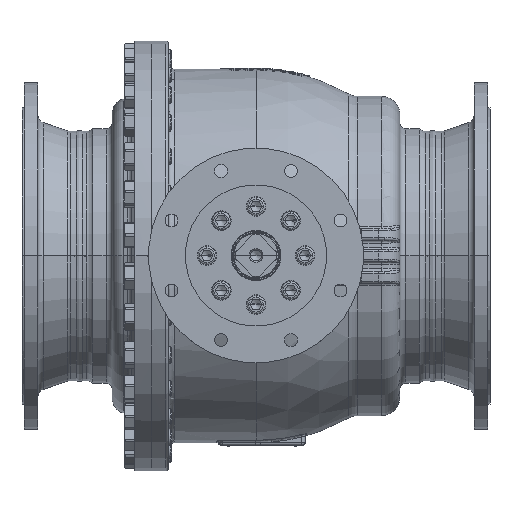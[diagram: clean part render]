
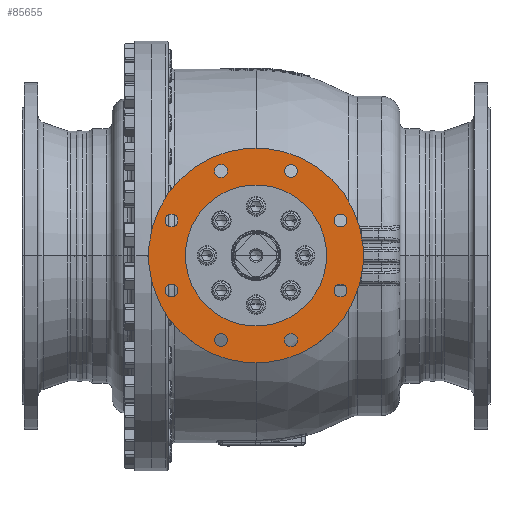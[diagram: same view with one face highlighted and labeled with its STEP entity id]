
A CAD part, top view. The second image highlights one B-rep face of the part: STEP entity #85655.
In plain terms, the highlighted planar face has unit normal (0, 0, 1).
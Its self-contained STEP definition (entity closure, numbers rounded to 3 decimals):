
#8566=CARTESIAN_POINT('',(0.,0.,442.5));
#8567=DIRECTION('',(0.,0.,1.));
#8568=DIRECTION('',(0.707,0.707,0.));
#8569=AXIS2_PLACEMENT_3D('',#8566,#8567,#8568);
#8571=CARTESIAN_POINT('',(0.,0.,442.5));
#8572=DIRECTION('',(0.,0.,-1.));
#8573=DIRECTION('',(0.707,0.707,0.));
#8574=AXIS2_PLACEMENT_3D('',#8571,#8572,#8573);
#8576=CARTESIAN_POINT('',(-137.658,57.02,442.5));
#8577=DIRECTION('',(0.,0.,-1.));
#8578=DIRECTION('',(-0.707,-0.707,0.));
#8579=AXIS2_PLACEMENT_3D('',#8576,#8577,#8578);
#8581=CARTESIAN_POINT('',(-137.658,57.02,442.5));
#8582=DIRECTION('',(0.,0.,-1.));
#8583=DIRECTION('',(0.707,0.707,0.));
#8584=AXIS2_PLACEMENT_3D('',#8581,#8582,#8583);
#8586=CARTESIAN_POINT('',(-57.02,137.658,442.5));
#8587=DIRECTION('',(0.,0.,-1.));
#8588=DIRECTION('',(-1.,0.,0.));
#8589=AXIS2_PLACEMENT_3D('',#8586,#8587,#8588);
#8591=CARTESIAN_POINT('',(-57.02,137.658,442.5));
#8592=DIRECTION('',(0.,0.,-1.));
#8593=DIRECTION('',(1.,0.,0.));
#8594=AXIS2_PLACEMENT_3D('',#8591,#8592,#8593);
#8596=CARTESIAN_POINT('',(57.02,137.658,442.5));
#8597=DIRECTION('',(0.,0.,-1.));
#8598=DIRECTION('',(-0.707,0.707,0.));
#8599=AXIS2_PLACEMENT_3D('',#8596,#8597,#8598);
#8601=CARTESIAN_POINT('',(57.02,137.658,442.5));
#8602=DIRECTION('',(0.,0.,-1.));
#8603=DIRECTION('',(0.707,-0.707,0.));
#8604=AXIS2_PLACEMENT_3D('',#8601,#8602,#8603);
#8606=CARTESIAN_POINT('',(137.658,57.02,442.5));
#8607=DIRECTION('',(0.,0.,-1.));
#8608=DIRECTION('',(0.,1.,0.));
#8609=AXIS2_PLACEMENT_3D('',#8606,#8607,#8608);
#8611=CARTESIAN_POINT('',(137.658,57.02,442.5));
#8612=DIRECTION('',(0.,0.,-1.));
#8613=DIRECTION('',(0.,-1.,0.));
#8614=AXIS2_PLACEMENT_3D('',#8611,#8612,#8613);
#8616=CARTESIAN_POINT('',(137.658,-57.02,442.5));
#8617=DIRECTION('',(0.,0.,-1.));
#8618=DIRECTION('',(0.707,0.707,0.));
#8619=AXIS2_PLACEMENT_3D('',#8616,#8617,#8618);
#8621=CARTESIAN_POINT('',(137.658,-57.02,442.5));
#8622=DIRECTION('',(0.,0.,-1.));
#8623=DIRECTION('',(-0.707,-0.707,0.));
#8624=AXIS2_PLACEMENT_3D('',#8621,#8622,#8623);
#8626=CARTESIAN_POINT('',(57.02,-137.658,442.5));
#8627=DIRECTION('',(0.,0.,-1.));
#8628=DIRECTION('',(1.,0.,0.));
#8629=AXIS2_PLACEMENT_3D('',#8626,#8627,#8628);
#8631=CARTESIAN_POINT('',(57.02,-137.658,442.5));
#8632=DIRECTION('',(0.,0.,-1.));
#8633=DIRECTION('',(-1.,0.,0.));
#8634=AXIS2_PLACEMENT_3D('',#8631,#8632,#8633);
#8636=CARTESIAN_POINT('',(-57.02,-137.658,442.5));
#8637=DIRECTION('',(0.,0.,-1.));
#8638=DIRECTION('',(0.707,-0.707,0.));
#8639=AXIS2_PLACEMENT_3D('',#8636,#8637,#8638);
#8641=CARTESIAN_POINT('',(-57.02,-137.658,442.5));
#8642=DIRECTION('',(0.,0.,-1.));
#8643=DIRECTION('',(-0.707,0.707,0.));
#8644=AXIS2_PLACEMENT_3D('',#8641,#8642,#8643);
#8646=CARTESIAN_POINT('',(-137.658,-57.02,442.5));
#8647=DIRECTION('',(0.,0.,-1.));
#8648=DIRECTION('',(0.,-1.,0.));
#8649=AXIS2_PLACEMENT_3D('',#8646,#8647,#8648);
#8651=CARTESIAN_POINT('',(-137.658,-57.02,442.5));
#8652=DIRECTION('',(0.,0.,-1.));
#8653=DIRECTION('',(0.,1.,0.));
#8654=AXIS2_PLACEMENT_3D('',#8651,#8652,#8653);
#8660=CARTESIAN_POINT('',(0.,0.,442.5));
#8661=DIRECTION('',(0.,0.,-1.));
#8662=DIRECTION('',(0.707,0.707,0.));
#8663=AXIS2_PLACEMENT_3D('',#8660,#8661,#8662);
#8669=CARTESIAN_POINT('',(0.,0.,442.5));
#8670=DIRECTION('',(0.,0.,1.));
#8671=DIRECTION('',(0.707,0.707,0.));
#8672=AXIS2_PLACEMENT_3D('',#8669,#8670,#8671);
#63521=CARTESIAN_POINT('',(81.317,81.317,442.5));
#63523=VERTEX_POINT('',#63521);
#63525=CARTESIAN_POINT('',(-81.317,-81.317,442.5));
#63527=VERTEX_POINT('',#63525);
#63598=CARTESIAN_POINT('',(123.744,123.744,442.5));
#63600=VERTEX_POINT('',#63598);
#63602=CARTESIAN_POINT('',(-123.744,-123.744,442.5));
#63604=VERTEX_POINT('',#63602);
#63677=CARTESIAN_POINT('',(-145.083,49.595,442.5));
#63678=CARTESIAN_POINT('',(-130.233,64.444,442.5));
#63679=VERTEX_POINT('',#63677);
#63680=VERTEX_POINT('',#63678);
#63685=CARTESIAN_POINT('',(-67.52,137.658,442.5));
#63686=CARTESIAN_POINT('',(-46.52,137.658,442.5));
#63687=VERTEX_POINT('',#63685);
#63688=VERTEX_POINT('',#63686);
#63693=CARTESIAN_POINT('',(49.595,145.083,442.5));
#63694=CARTESIAN_POINT('',(64.444,130.233,442.5));
#63695=VERTEX_POINT('',#63693);
#63696=VERTEX_POINT('',#63694);
#63701=CARTESIAN_POINT('',(137.658,67.52,442.5));
#63702=CARTESIAN_POINT('',(137.658,46.52,442.5));
#63703=VERTEX_POINT('',#63701);
#63704=VERTEX_POINT('',#63702);
#63709=CARTESIAN_POINT('',(145.083,-49.595,442.5));
#63710=CARTESIAN_POINT('',(130.233,-64.444,442.5));
#63711=VERTEX_POINT('',#63709);
#63712=VERTEX_POINT('',#63710);
#63717=CARTESIAN_POINT('',(67.52,-137.658,442.5));
#63718=CARTESIAN_POINT('',(46.52,-137.658,442.5));
#63719=VERTEX_POINT('',#63717);
#63720=VERTEX_POINT('',#63718);
#63725=CARTESIAN_POINT('',(-49.595,-145.083,442.5));
#63726=CARTESIAN_POINT('',(-64.444,-130.233,442.5));
#63727=VERTEX_POINT('',#63725);
#63728=VERTEX_POINT('',#63726);
#63733=CARTESIAN_POINT('',(-137.658,-67.52,442.5));
#63734=CARTESIAN_POINT('',(-137.658,-46.52,442.5));
#63735=VERTEX_POINT('',#63733);
#63736=VERTEX_POINT('',#63734);
#85592=CARTESIAN_POINT('',(0.,0.,442.5));
#85593=DIRECTION('',(0.,0.,1.));
#85594=DIRECTION('',(0.707,0.707,0.));
#85595=AXIS2_PLACEMENT_3D('',#85592,#85593,#85594);
#85596=PLANE('',#85595);
#85597=ORIENTED_EDGE('',*,*,#85585,.F.);
#85598=ORIENTED_EDGE('',*,*,#85574,.T.);
#85599=EDGE_LOOP('',(#85597,#85598));
#85600=FACE_OUTER_BOUND('',#85599,.F.);
#85602=ORIENTED_EDGE('',*,*,#85601,.F.);
#85604=ORIENTED_EDGE('',*,*,#85603,.T.);
#85605=EDGE_LOOP('',(#85602,#85604));
#85606=FACE_BOUND('',#85605,.F.);
#85608=ORIENTED_EDGE('',*,*,#85607,.F.);
#85610=ORIENTED_EDGE('',*,*,#85609,.F.);
#85611=EDGE_LOOP('',(#85608,#85610));
#85612=FACE_BOUND('',#85611,.F.);
#85614=ORIENTED_EDGE('',*,*,#85613,.F.);
#85616=ORIENTED_EDGE('',*,*,#85615,.F.);
#85617=EDGE_LOOP('',(#85614,#85616));
#85618=FACE_BOUND('',#85617,.F.);
#85620=ORIENTED_EDGE('',*,*,#85619,.F.);
#85622=ORIENTED_EDGE('',*,*,#85621,.F.);
#85623=EDGE_LOOP('',(#85620,#85622));
#85624=FACE_BOUND('',#85623,.F.);
#85626=ORIENTED_EDGE('',*,*,#85625,.F.);
#85628=ORIENTED_EDGE('',*,*,#85627,.F.);
#85629=EDGE_LOOP('',(#85626,#85628));
#85630=FACE_BOUND('',#85629,.F.);
#85632=ORIENTED_EDGE('',*,*,#85631,.F.);
#85634=ORIENTED_EDGE('',*,*,#85633,.F.);
#85635=EDGE_LOOP('',(#85632,#85634));
#85636=FACE_BOUND('',#85635,.F.);
#85638=ORIENTED_EDGE('',*,*,#85637,.F.);
#85640=ORIENTED_EDGE('',*,*,#85639,.F.);
#85641=EDGE_LOOP('',(#85638,#85640));
#85642=FACE_BOUND('',#85641,.F.);
#85644=ORIENTED_EDGE('',*,*,#85643,.F.);
#85646=ORIENTED_EDGE('',*,*,#85645,.F.);
#85647=EDGE_LOOP('',(#85644,#85646));
#85648=FACE_BOUND('',#85647,.F.);
#85650=ORIENTED_EDGE('',*,*,#85649,.F.);
#85652=ORIENTED_EDGE('',*,*,#85651,.F.);
#85653=EDGE_LOOP('',(#85650,#85652));
#85654=FACE_BOUND('',#85653,.F.);
#85655=ADVANCED_FACE('',(#85600,#85606,#85612,#85618,#85624,#85630,#85636,
#85642,#85648,#85654),#85596,.T.);
#8570=CIRCLE('',#8569,175.);
#8575=CIRCLE('',#8574,175.);
#8580=CIRCLE('',#8579,10.5);
#8585=CIRCLE('',#8584,10.5);
#8590=CIRCLE('',#8589,10.5);
#8595=CIRCLE('',#8594,10.5);
#8600=CIRCLE('',#8599,10.5);
#8605=CIRCLE('',#8604,10.5);
#8610=CIRCLE('',#8609,10.5);
#8615=CIRCLE('',#8614,10.5);
#8620=CIRCLE('',#8619,10.5);
#8625=CIRCLE('',#8624,10.5);
#8630=CIRCLE('',#8629,10.5);
#8635=CIRCLE('',#8634,10.5);
#8640=CIRCLE('',#8639,10.5);
#8645=CIRCLE('',#8644,10.5);
#8650=CIRCLE('',#8649,10.5);
#8655=CIRCLE('',#8654,10.5);
#8664=CIRCLE('',#8663,115.);
#8673=CIRCLE('',#8672,115.);
#85574=EDGE_CURVE('',#63600,#63604,#8575,.T.);
#85585=EDGE_CURVE('',#63600,#63604,#8570,.T.);
#85601=EDGE_CURVE('',#63523,#63527,#8664,.T.);
#85603=EDGE_CURVE('',#63523,#63527,#8673,.T.);
#85607=EDGE_CURVE('',#63679,#63680,#8580,.T.);
#85609=EDGE_CURVE('',#63680,#63679,#8585,.T.);
#85613=EDGE_CURVE('',#63687,#63688,#8590,.T.);
#85615=EDGE_CURVE('',#63688,#63687,#8595,.T.);
#85619=EDGE_CURVE('',#63695,#63696,#8600,.T.);
#85621=EDGE_CURVE('',#63696,#63695,#8605,.T.);
#85625=EDGE_CURVE('',#63703,#63704,#8610,.T.);
#85627=EDGE_CURVE('',#63704,#63703,#8615,.T.);
#85631=EDGE_CURVE('',#63711,#63712,#8620,.T.);
#85633=EDGE_CURVE('',#63712,#63711,#8625,.T.);
#85637=EDGE_CURVE('',#63719,#63720,#8630,.T.);
#85639=EDGE_CURVE('',#63720,#63719,#8635,.T.);
#85643=EDGE_CURVE('',#63727,#63728,#8640,.T.);
#85645=EDGE_CURVE('',#63728,#63727,#8645,.T.);
#85649=EDGE_CURVE('',#63735,#63736,#8650,.T.);
#85651=EDGE_CURVE('',#63736,#63735,#8655,.T.);
